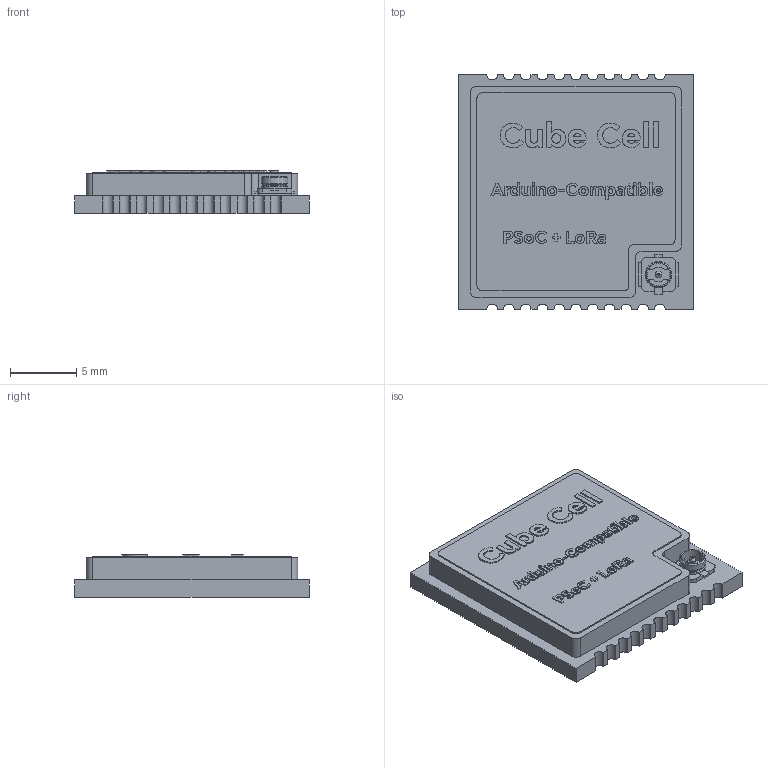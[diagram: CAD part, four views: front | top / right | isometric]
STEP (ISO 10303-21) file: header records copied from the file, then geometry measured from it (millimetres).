
FILE_DESCRIPTION(('FreeCAD Model'),'2;1');
FILE_NAME('Open CASCADE Shape Model','2024-04-29T23:55:35',( 'kicad StepUp'),('ksu MCAD'),'Open CASCADE STEP processor 7.5', 'FreeCAD','Unknown');
FILE_SCHEMA(('AUTOMOTIVE_DESIGN { 1 0 10303 214 1 1 1 1 }'));
Length unit declared in the file: millimetre
Products named in the file (6): HTCC_AM01v2_arm_2022_04_v0; Body; User Library-U.FL-R-SMT(10); Extrude001; Extrude002; Extrude
Assembly tree (5 placements, depth 2):
  HTCC_AM01v2_arm_2022_04_v0
    Body
    User Library-U.FL-R-SMT(10)
    Extrude001
    Extrude002
    Extrude
Bounding box: 17.78 x 17.78 x 3.2 mm (x, y, z)
Volume: 844 mm3; surface area: 920.7 mm2
Topology: 39 solids, 39 shells, 853 faces, 2291 edges, 1522 vertices
Faces by surface type: extrusion 445, plane 342, cylinder 58, cone 6, revolution 2
Entity records: 28193 total; most frequent: CARTESIAN_POINT 7356, ORIENTED_EDGE 4582, DIRECTION 2796, EDGE_CURVE 2291, VECTOR 1722, VERTEX_POINT 1522, B_SPLINE_CURVE_WITH_KNOTS 1337, LINE 1277
